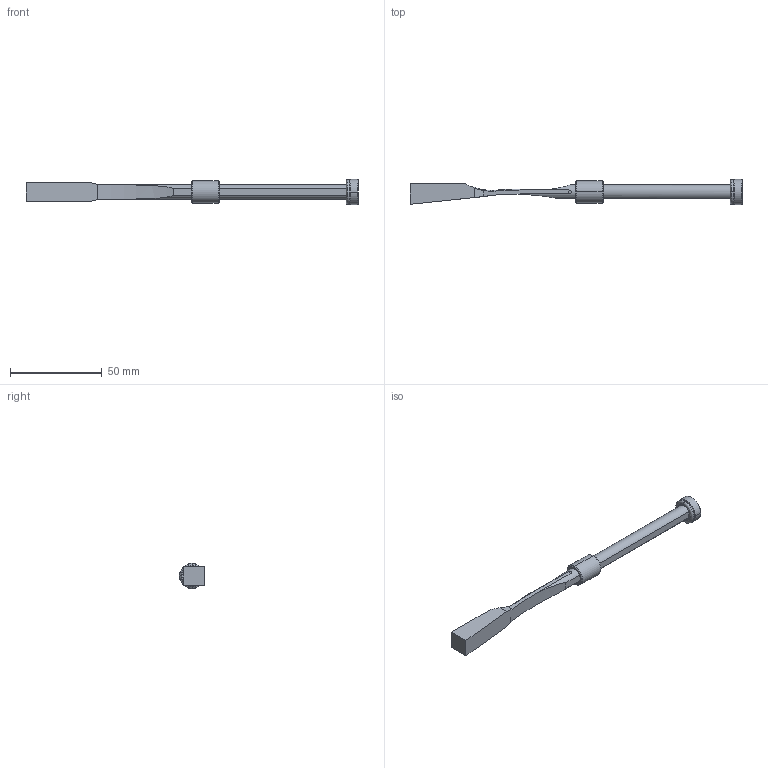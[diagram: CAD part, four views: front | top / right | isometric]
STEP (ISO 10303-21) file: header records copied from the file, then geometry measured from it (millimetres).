
FILE_DESCRIPTION (( 'STEP AP214' ), '1' );
FILE_NAME ('PW081030-TANCADA.STEP', '2020-02-10T08:45:54', ( '' ), ( '' ), 'SwSTEP 2.0', 'SolidWorks 2018', '' );
FILE_SCHEMA (( 'AUTOMOTIVE_DESIGN' ));
Length unit declared in the file: millimetre
Products named in the file (6): 3JT9.5X2X13.5; 9CS081215; 9FP1406M5; 9PW081030 TANCADA; 1DIN7984516_DIN 7984 - M5 x 16 --- 16C; PW081030-TANCADA
Assembly tree (5 placements, depth 2):
  PW081030-TANCADA
    9PW081030 TANCADA
    9CS081215
    9FP1406M5
    3JT9.5X2X13.5
    1DIN7984516_DIN 7984 - M5 x 16 --- 16C
Bounding box: 181 x 13.8 x 13.8 mm (x, y, z)
Volume: 10527.4 mm3; surface area: 7755.4 mm2
Topology: 5 solids, 5 shells, 102 faces, 229 edges, 136 vertices
Faces by surface type: plane 34, cylinder 24, cone 20, torus 16, bspline 8
Entity records: 3445 total; most frequent: CARTESIAN_POINT 697, DIRECTION 513, ORIENTED_EDGE 450, EDGE_CURVE 225, AXIS2_PLACEMENT_3D 208, VERTEX_POINT 136, EDGE_LOOP 111, CIRCLE 106
